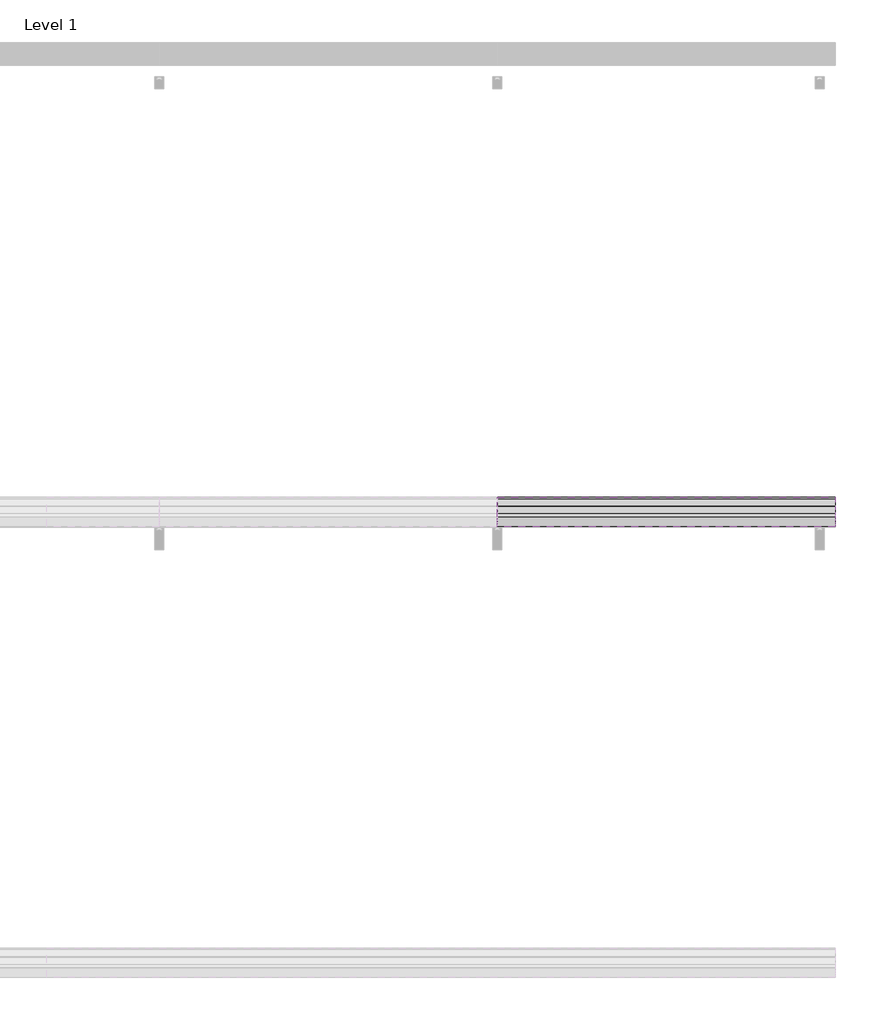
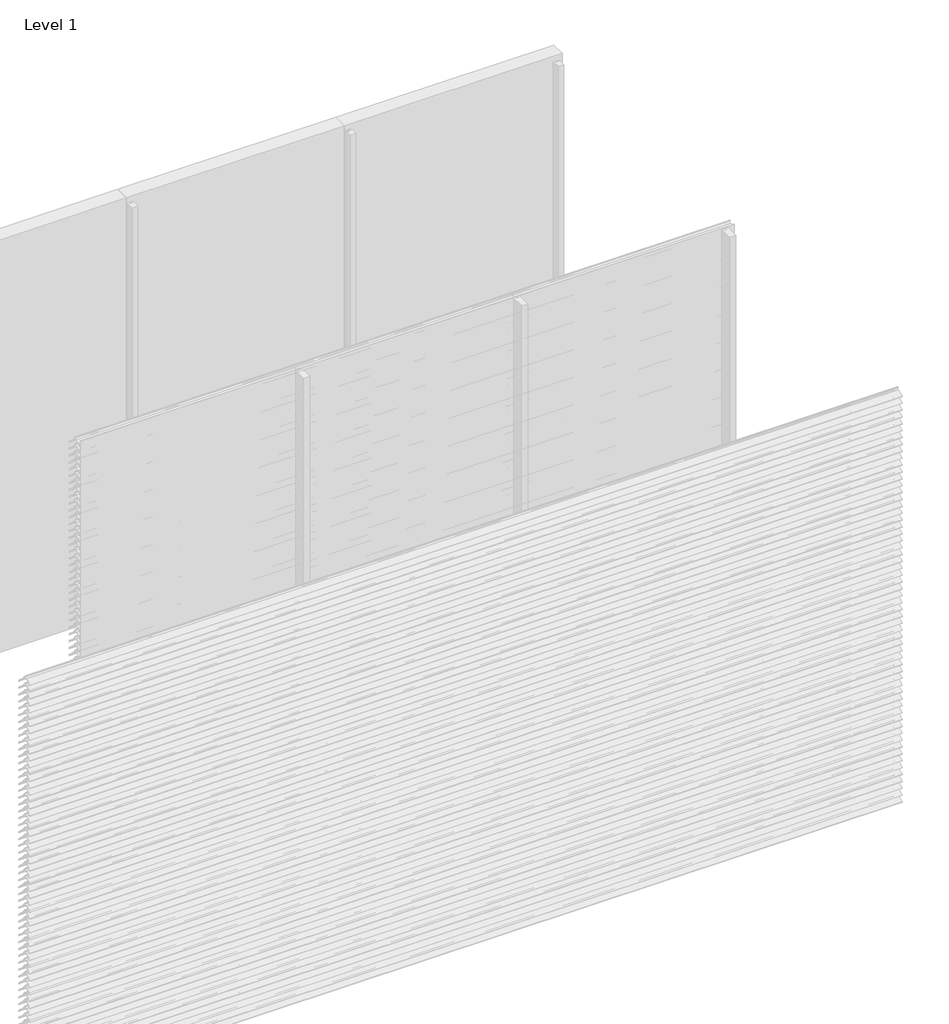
# One storey, part 70 of 173: 18 proxies.
"""IFC4 building model written with IfcOpenShell, lengths in millimetres."""

from ifc_helpers import new_model, si_unit, point, frame, frame_2d, origin, place, context, project, spatial, polyline, circle_curve, trimmed, segment, composite_curve, outline, extrude, element, save

model = new_model("IFC4")

# Units and contexts
model_context = context("Model", 3, world=origin())
ifc_project = project(units=[si_unit("LENGTHUNIT", "METRE", prefix="MILLI")], contexts=[model_context])

# Site, building, storey
site = spatial("IfcSite", under=ifc_project)
building = spatial("IfcBuilding", under=site)
storey = spatial("IfcBuildingStorey", under=building, Name="Level 1", Elevation=0.0)

# Proxies
placement = place(None, origin())
element("IfcBuildingElementProxy", 1, Name="Wall Sweeps", at=placement, inside=storey, context=model_context, shape_type="SweptSolid", body=[
    extrude(outline(composite_curve([segment(polyline([(-35998.0, 1359.1474905), (-35998.0, 1361.6227417)]), True, "CONTINUOUS"), segment(trimmed(circle_curve(frame_2d((-35951.2682172, 1316.2200208)), 65.1557103), [point((-35998.0, 1361.6227417))], [point((-35954.4014323, 1381.3003524))], False, "CARTESIAN"), True, "CONTINUOUS"), segment(polyline([(-35954.4014323, 1381.3003524), (-35934.8315836, 1381.3003524)]), True, "CONTINUOUS"), segment(trimmed(circle_curve(frame_2d((-35732.7329489, 1528.5533172)), 250.0545817), [point((-35934.8315836, 1381.3003524))], [point((-35941.4452143, 1390.8344583))], False, "CARTESIAN"), True, "CONTINUOUS"), segment(trimmed(circle_curve(frame_2d((-35953.2981792, 1385.1737835)), 13.1352966), [point((-35941.4452143, 1390.8344583))], [point((-35953.8171475, 1398.298824))], True, "CARTESIAN"), True, "CONTINUOUS"), segment(polyline([(-35953.8171475, 1398.298824), (-35953.8171475, 1400.0)]), True, "CONTINUOUS"), segment(trimmed(circle_curve(frame_2d((-35953.2981792, 1385.1737835)), 14.8352966), [point((-35953.8171475, 1400.0))], [point((-35939.9637661, 1391.6760487))], False, "CARTESIAN"), True, "CONTINUOUS"), segment(trimmed(circle_curve(frame_2d((-35732.7329489, 1528.5533172)), 248.3545817), [point((-35939.9637661, 1391.6760487))], [point((-35873.8787895, 1324.2059416))], True, "CARTESIAN"), True, "CONTINUOUS"), segment(trimmed(circle_curve(frame_2d((-35883.8147537, 1311.6649442)), 16.0), [point((-35873.8787895, 1324.2059416))], [point((-35867.8648347, 1310.4))], False, "CARTESIAN"), True, "CONTINUOUS"), segment(polyline([(-35867.8648347, 1310.4), (-35869.6712069, 1310.4)]), True, "CONTINUOUS"), segment(trimmed(circle_curve(frame_2d((-35883.8147537, 1311.6649442)), 14.2), [point((-35869.6712069, 1310.4))], [point((-35874.9518628, 1322.7594998))], True, "CARTESIAN"), True, "CONTINUOUS"), segment(trimmed(circle_curve(frame_2d((-35732.7329489, 1528.5533172)), 250.1545817), [point((-35874.9518628, 1322.7594998))], [point((-35933.7064024, 1379.6003524))], False, "CARTESIAN"), True, "CONTINUOUS"), segment(polyline([(-35933.7064024, 1379.6003524), (-35954.3602632, 1379.6003524)]), True, "CONTINUOUS"), segment(trimmed(circle_curve(frame_2d((-35951.2682172, 1316.2200208)), 63.4557103), [point((-35954.3602632, 1379.6003524))], [point((-35998.0, 1359.1474905))], True, "CARTESIAN"), True, "CONTINUOUS")], self_intersect=False)), frame((4500.0, 0.0, 0.0), z_axis=(1.0, 0.0, 0.0), x_axis=(0.0, 1.0, 0.0)), (0.0, 0.0, 1.0), 1500.0),
])
element("IfcBuildingElementProxy", 2, Name="Wall Sweeps", at=placement, inside=storey, context=model_context, shape_type="SweptSolid", body=[
    extrude(outline(composite_curve([segment(polyline([(-35998.0, 1309.1474905), (-35998.0, 1311.6227417)]), True, "CONTINUOUS"), segment(trimmed(circle_curve(frame_2d((-35951.2682172, 1266.2200208)), 65.1557103), [point((-35998.0, 1311.6227417))], [point((-35954.4014323, 1331.3003524))], False, "CARTESIAN"), True, "CONTINUOUS"), segment(polyline([(-35954.4014323, 1331.3003524), (-35934.8315836, 1331.3003524)]), True, "CONTINUOUS"), segment(trimmed(circle_curve(frame_2d((-35732.7329489, 1478.5533172)), 250.0545817), [point((-35934.8315836, 1331.3003524))], [point((-35941.4452143, 1340.8344583))], False, "CARTESIAN"), True, "CONTINUOUS"), segment(trimmed(circle_curve(frame_2d((-35953.2981792, 1335.1737835)), 13.1352966), [point((-35941.4452143, 1340.8344583))], [point((-35953.8171475, 1348.298824))], True, "CARTESIAN"), True, "CONTINUOUS"), segment(polyline([(-35953.8171475, 1348.298824), (-35953.8171475, 1350.0)]), True, "CONTINUOUS"), segment(trimmed(circle_curve(frame_2d((-35953.2981792, 1335.1737835)), 14.8352966), [point((-35953.8171475, 1350.0))], [point((-35939.9637661, 1341.6760487))], False, "CARTESIAN"), True, "CONTINUOUS"), segment(trimmed(circle_curve(frame_2d((-35732.7329489, 1478.5533172)), 248.3545817), [point((-35939.9637661, 1341.6760487))], [point((-35873.8787895, 1274.2059416))], True, "CARTESIAN"), True, "CONTINUOUS"), segment(trimmed(circle_curve(frame_2d((-35883.8147537, 1261.6649442)), 16.0), [point((-35873.8787895, 1274.2059416))], [point((-35867.8648347, 1260.4))], False, "CARTESIAN"), True, "CONTINUOUS"), segment(polyline([(-35867.8648347, 1260.4), (-35869.6712069, 1260.4)]), True, "CONTINUOUS"), segment(trimmed(circle_curve(frame_2d((-35883.8147537, 1261.6649442)), 14.2), [point((-35869.6712069, 1260.4))], [point((-35874.9518628, 1272.7594998))], True, "CARTESIAN"), True, "CONTINUOUS"), segment(trimmed(circle_curve(frame_2d((-35732.7329489, 1478.5533172)), 250.1545817), [point((-35874.9518628, 1272.7594998))], [point((-35933.7064024, 1329.6003524))], False, "CARTESIAN"), True, "CONTINUOUS"), segment(polyline([(-35933.7064024, 1329.6003524), (-35954.3602632, 1329.6003524)]), True, "CONTINUOUS"), segment(trimmed(circle_curve(frame_2d((-35951.2682172, 1266.2200208)), 63.4557103), [point((-35954.3602632, 1329.6003524))], [point((-35998.0, 1309.1474905))], True, "CARTESIAN"), True, "CONTINUOUS")], self_intersect=False)), frame((4500.0, 0.0, 0.0), z_axis=(1.0, 0.0, 0.0), x_axis=(0.0, 1.0, 0.0)), (0.0, 0.0, 1.0), 1500.0),
])
element("IfcBuildingElementProxy", 3, Name="Wall Sweeps", at=placement, inside=storey, context=model_context, shape_type="SweptSolid", body=[
    extrude(outline(composite_curve([segment(polyline([(-35998.0, 1259.1474905), (-35998.0, 1261.6227417)]), True, "CONTINUOUS"), segment(trimmed(circle_curve(frame_2d((-35951.2682172, 1216.2200208)), 65.1557103), [point((-35998.0, 1261.6227417))], [point((-35954.4014323, 1281.3003524))], False, "CARTESIAN"), True, "CONTINUOUS"), segment(polyline([(-35954.4014323, 1281.3003524), (-35934.8315836, 1281.3003524)]), True, "CONTINUOUS"), segment(trimmed(circle_curve(frame_2d((-35732.7329489, 1428.5533172)), 250.0545817), [point((-35934.8315836, 1281.3003524))], [point((-35941.4452143, 1290.8344583))], False, "CARTESIAN"), True, "CONTINUOUS"), segment(trimmed(circle_curve(frame_2d((-35953.2981792, 1285.1737835)), 13.1352966), [point((-35941.4452143, 1290.8344583))], [point((-35953.8171475, 1298.298824))], True, "CARTESIAN"), True, "CONTINUOUS"), segment(polyline([(-35953.8171475, 1298.298824), (-35953.8171475, 1300.0)]), True, "CONTINUOUS"), segment(trimmed(circle_curve(frame_2d((-35953.2981792, 1285.1737835)), 14.8352966), [point((-35953.8171475, 1300.0))], [point((-35939.9637661, 1291.6760487))], False, "CARTESIAN"), True, "CONTINUOUS"), segment(trimmed(circle_curve(frame_2d((-35732.7329489, 1428.5533172)), 248.3545817), [point((-35939.9637661, 1291.6760487))], [point((-35873.8787895, 1224.2059416))], True, "CARTESIAN"), True, "CONTINUOUS"), segment(trimmed(circle_curve(frame_2d((-35883.8147537, 1211.6649442)), 16.0), [point((-35873.8787895, 1224.2059416))], [point((-35867.8648347, 1210.4))], False, "CARTESIAN"), True, "CONTINUOUS"), segment(polyline([(-35867.8648347, 1210.4), (-35869.6712069, 1210.4)]), True, "CONTINUOUS"), segment(trimmed(circle_curve(frame_2d((-35883.8147537, 1211.6649442)), 14.2), [point((-35869.6712069, 1210.4))], [point((-35874.9518628, 1222.7594998))], True, "CARTESIAN"), True, "CONTINUOUS"), segment(trimmed(circle_curve(frame_2d((-35732.7329489, 1428.5533172)), 250.1545817), [point((-35874.9518628, 1222.7594998))], [point((-35933.7064024, 1279.6003524))], False, "CARTESIAN"), True, "CONTINUOUS"), segment(polyline([(-35933.7064024, 1279.6003524), (-35954.3602632, 1279.6003524)]), True, "CONTINUOUS"), segment(trimmed(circle_curve(frame_2d((-35951.2682172, 1216.2200208)), 63.4557103), [point((-35954.3602632, 1279.6003524))], [point((-35998.0, 1259.1474905))], True, "CARTESIAN"), True, "CONTINUOUS")], self_intersect=False)), frame((4500.0, 0.0, 0.0), z_axis=(1.0, 0.0, 0.0), x_axis=(0.0, 1.0, 0.0)), (0.0, 0.0, 1.0), 1500.0),
])
element("IfcBuildingElementProxy", 4, Name="Wall Sweeps", at=placement, inside=storey, context=model_context, shape_type="SweptSolid", body=[
    extrude(outline(composite_curve([segment(polyline([(-35998.0, 1209.1474905), (-35998.0, 1211.6227417)]), True, "CONTINUOUS"), segment(trimmed(circle_curve(frame_2d((-35951.2682172, 1166.2200208)), 65.1557103), [point((-35998.0, 1211.6227417))], [point((-35954.4014323, 1231.3003524))], False, "CARTESIAN"), True, "CONTINUOUS"), segment(polyline([(-35954.4014323, 1231.3003524), (-35934.8315836, 1231.3003524)]), True, "CONTINUOUS"), segment(trimmed(circle_curve(frame_2d((-35732.7329489, 1378.5533172)), 250.0545817), [point((-35934.8315836, 1231.3003524))], [point((-35941.4452143, 1240.8344583))], False, "CARTESIAN"), True, "CONTINUOUS"), segment(trimmed(circle_curve(frame_2d((-35953.2981792, 1235.1737835)), 13.1352966), [point((-35941.4452143, 1240.8344583))], [point((-35953.8171475, 1248.298824))], True, "CARTESIAN"), True, "CONTINUOUS"), segment(polyline([(-35953.8171475, 1248.298824), (-35953.8171475, 1250.0)]), True, "CONTINUOUS"), segment(trimmed(circle_curve(frame_2d((-35953.2981792, 1235.1737835)), 14.8352966), [point((-35953.8171475, 1250.0))], [point((-35939.9637661, 1241.6760487))], False, "CARTESIAN"), True, "CONTINUOUS"), segment(trimmed(circle_curve(frame_2d((-35732.7329489, 1378.5533172)), 248.3545817), [point((-35939.9637661, 1241.6760487))], [point((-35873.8787895, 1174.2059416))], True, "CARTESIAN"), True, "CONTINUOUS"), segment(trimmed(circle_curve(frame_2d((-35883.8147537, 1161.6649442)), 16.0), [point((-35873.8787895, 1174.2059416))], [point((-35867.8648347, 1160.4))], False, "CARTESIAN"), True, "CONTINUOUS"), segment(polyline([(-35867.8648347, 1160.4), (-35869.6712069, 1160.4)]), True, "CONTINUOUS"), segment(trimmed(circle_curve(frame_2d((-35883.8147537, 1161.6649442)), 14.2), [point((-35869.6712069, 1160.4))], [point((-35874.9518628, 1172.7594998))], True, "CARTESIAN"), True, "CONTINUOUS"), segment(trimmed(circle_curve(frame_2d((-35732.7329489, 1378.5533172)), 250.1545817), [point((-35874.9518628, 1172.7594998))], [point((-35933.7064024, 1229.6003524))], False, "CARTESIAN"), True, "CONTINUOUS"), segment(polyline([(-35933.7064024, 1229.6003524), (-35954.3602632, 1229.6003524)]), True, "CONTINUOUS"), segment(trimmed(circle_curve(frame_2d((-35951.2682172, 1166.2200208)), 63.4557103), [point((-35954.3602632, 1229.6003524))], [point((-35998.0, 1209.1474905))], True, "CARTESIAN"), True, "CONTINUOUS")], self_intersect=False)), frame((4500.0, 0.0, 0.0), z_axis=(1.0, 0.0, 0.0), x_axis=(0.0, 1.0, 0.0)), (0.0, 0.0, 1.0), 1500.0),
])
element("IfcBuildingElementProxy", 5, Name="Wall Sweeps", at=placement, inside=storey, context=model_context, shape_type="SweptSolid", body=[
    extrude(outline(composite_curve([segment(polyline([(-35998.0, 1159.1474905), (-35998.0, 1161.6227417)]), True, "CONTINUOUS"), segment(trimmed(circle_curve(frame_2d((-35951.2682172, 1116.2200208)), 65.1557103), [point((-35998.0, 1161.6227417))], [point((-35954.4014323, 1181.3003524))], False, "CARTESIAN"), True, "CONTINUOUS"), segment(polyline([(-35954.4014323, 1181.3003524), (-35934.8315836, 1181.3003524)]), True, "CONTINUOUS"), segment(trimmed(circle_curve(frame_2d((-35732.7329489, 1328.5533172)), 250.0545817), [point((-35934.8315836, 1181.3003524))], [point((-35941.4452143, 1190.8344583))], False, "CARTESIAN"), True, "CONTINUOUS"), segment(trimmed(circle_curve(frame_2d((-35953.2981792, 1185.1737835)), 13.1352966), [point((-35941.4452143, 1190.8344583))], [point((-35953.8171475, 1198.298824))], True, "CARTESIAN"), True, "CONTINUOUS"), segment(polyline([(-35953.8171475, 1198.298824), (-35953.8171475, 1200.0)]), True, "CONTINUOUS"), segment(trimmed(circle_curve(frame_2d((-35953.2981792, 1185.1737835)), 14.8352966), [point((-35953.8171475, 1200.0))], [point((-35939.9637661, 1191.6760487))], False, "CARTESIAN"), True, "CONTINUOUS"), segment(trimmed(circle_curve(frame_2d((-35732.7329489, 1328.5533172)), 248.3545817), [point((-35939.9637661, 1191.6760487))], [point((-35873.8787895, 1124.2059416))], True, "CARTESIAN"), True, "CONTINUOUS"), segment(trimmed(circle_curve(frame_2d((-35883.8147537, 1111.6649442)), 16.0), [point((-35873.8787895, 1124.2059416))], [point((-35867.8648347, 1110.4))], False, "CARTESIAN"), True, "CONTINUOUS"), segment(polyline([(-35867.8648347, 1110.4), (-35869.6712069, 1110.4)]), True, "CONTINUOUS"), segment(trimmed(circle_curve(frame_2d((-35883.8147537, 1111.6649442)), 14.2), [point((-35869.6712069, 1110.4))], [point((-35874.9518628, 1122.7594998))], True, "CARTESIAN"), True, "CONTINUOUS"), segment(trimmed(circle_curve(frame_2d((-35732.7329489, 1328.5533172)), 250.1545817), [point((-35874.9518628, 1122.7594998))], [point((-35933.7064024, 1179.6003524))], False, "CARTESIAN"), True, "CONTINUOUS"), segment(polyline([(-35933.7064024, 1179.6003524), (-35954.3602632, 1179.6003524)]), True, "CONTINUOUS"), segment(trimmed(circle_curve(frame_2d((-35951.2682172, 1116.2200208)), 63.4557103), [point((-35954.3602632, 1179.6003524))], [point((-35998.0, 1159.1474905))], True, "CARTESIAN"), True, "CONTINUOUS")], self_intersect=False)), frame((4500.0, 0.0, 0.0), z_axis=(1.0, 0.0, 0.0), x_axis=(0.0, 1.0, 0.0)), (0.0, 0.0, 1.0), 1500.0),
])
element("IfcBuildingElementProxy", 6, Name="Wall Sweeps", at=placement, inside=storey, context=model_context, shape_type="SweptSolid", body=[
    extrude(outline(composite_curve([segment(polyline([(-35998.0, 1109.1474905), (-35998.0, 1111.6227417)]), True, "CONTINUOUS"), segment(trimmed(circle_curve(frame_2d((-35951.2682172, 1066.2200208)), 65.1557103), [point((-35998.0, 1111.6227417))], [point((-35954.4014323, 1131.3003524))], False, "CARTESIAN"), True, "CONTINUOUS"), segment(polyline([(-35954.4014323, 1131.3003524), (-35934.8315836, 1131.3003524)]), True, "CONTINUOUS"), segment(trimmed(circle_curve(frame_2d((-35732.7329489, 1278.5533172)), 250.0545817), [point((-35934.8315836, 1131.3003524))], [point((-35941.4452143, 1140.8344583))], False, "CARTESIAN"), True, "CONTINUOUS"), segment(trimmed(circle_curve(frame_2d((-35953.2981792, 1135.1737835)), 13.1352966), [point((-35941.4452143, 1140.8344583))], [point((-35953.8171475, 1148.298824))], True, "CARTESIAN"), True, "CONTINUOUS"), segment(polyline([(-35953.8171475, 1148.298824), (-35953.8171475, 1150.0)]), True, "CONTINUOUS"), segment(trimmed(circle_curve(frame_2d((-35953.2981792, 1135.1737835)), 14.8352966), [point((-35953.8171475, 1150.0))], [point((-35939.9637661, 1141.6760487))], False, "CARTESIAN"), True, "CONTINUOUS"), segment(trimmed(circle_curve(frame_2d((-35732.7329489, 1278.5533172)), 248.3545817), [point((-35939.9637661, 1141.6760487))], [point((-35873.8787895, 1074.2059416))], True, "CARTESIAN"), True, "CONTINUOUS"), segment(trimmed(circle_curve(frame_2d((-35883.8147537, 1061.6649442)), 16.0), [point((-35873.8787895, 1074.2059416))], [point((-35867.8648347, 1060.4))], False, "CARTESIAN"), True, "CONTINUOUS"), segment(polyline([(-35867.8648347, 1060.4), (-35869.6712069, 1060.4)]), True, "CONTINUOUS"), segment(trimmed(circle_curve(frame_2d((-35883.8147537, 1061.6649442)), 14.2), [point((-35869.6712069, 1060.4))], [point((-35874.9518628, 1072.7594998))], True, "CARTESIAN"), True, "CONTINUOUS"), segment(trimmed(circle_curve(frame_2d((-35732.7329489, 1278.5533172)), 250.1545817), [point((-35874.9518628, 1072.7594998))], [point((-35933.7064024, 1129.6003524))], False, "CARTESIAN"), True, "CONTINUOUS"), segment(polyline([(-35933.7064024, 1129.6003524), (-35954.3602632, 1129.6003524)]), True, "CONTINUOUS"), segment(trimmed(circle_curve(frame_2d((-35951.2682172, 1066.2200208)), 63.4557103), [point((-35954.3602632, 1129.6003524))], [point((-35998.0, 1109.1474905))], True, "CARTESIAN"), True, "CONTINUOUS")], self_intersect=False)), frame((4500.0, 0.0, 0.0), z_axis=(1.0, 0.0, 0.0), x_axis=(0.0, 1.0, 0.0)), (0.0, 0.0, 1.0), 1500.0),
])
element("IfcBuildingElementProxy", 7, Name="Wall Sweeps", at=placement, inside=storey, context=model_context, shape_type="SweptSolid", body=[
    extrude(outline(composite_curve([segment(polyline([(-35998.0, 1059.1474905), (-35998.0, 1061.6227417)]), True, "CONTINUOUS"), segment(trimmed(circle_curve(frame_2d((-35951.2682172, 1016.2200208)), 65.1557103), [point((-35998.0, 1061.6227417))], [point((-35954.4014323, 1081.3003524))], False, "CARTESIAN"), True, "CONTINUOUS"), segment(polyline([(-35954.4014323, 1081.3003524), (-35934.8315836, 1081.3003524)]), True, "CONTINUOUS"), segment(trimmed(circle_curve(frame_2d((-35732.7329489, 1228.5533172)), 250.0545817), [point((-35934.8315836, 1081.3003524))], [point((-35941.4452143, 1090.8344583))], False, "CARTESIAN"), True, "CONTINUOUS"), segment(trimmed(circle_curve(frame_2d((-35953.2981792, 1085.1737835)), 13.1352966), [point((-35941.4452143, 1090.8344583))], [point((-35953.8171475, 1098.298824))], True, "CARTESIAN"), True, "CONTINUOUS"), segment(polyline([(-35953.8171475, 1098.298824), (-35953.8171475, 1100.0)]), True, "CONTINUOUS"), segment(trimmed(circle_curve(frame_2d((-35953.2981792, 1085.1737835)), 14.8352966), [point((-35953.8171475, 1100.0))], [point((-35939.9637661, 1091.6760487))], False, "CARTESIAN"), True, "CONTINUOUS"), segment(trimmed(circle_curve(frame_2d((-35732.7329489, 1228.5533172)), 248.3545817), [point((-35939.9637661, 1091.6760487))], [point((-35873.8787895, 1024.2059416))], True, "CARTESIAN"), True, "CONTINUOUS"), segment(trimmed(circle_curve(frame_2d((-35883.8147537, 1011.6649442)), 16.0), [point((-35873.8787895, 1024.2059416))], [point((-35867.8648347, 1010.4))], False, "CARTESIAN"), True, "CONTINUOUS"), segment(polyline([(-35867.8648347, 1010.4), (-35869.6712069, 1010.4)]), True, "CONTINUOUS"), segment(trimmed(circle_curve(frame_2d((-35883.8147537, 1011.6649442)), 14.2), [point((-35869.6712069, 1010.4))], [point((-35874.9518628, 1022.7594998))], True, "CARTESIAN"), True, "CONTINUOUS"), segment(trimmed(circle_curve(frame_2d((-35732.7329489, 1228.5533172)), 250.1545817), [point((-35874.9518628, 1022.7594998))], [point((-35933.7064024, 1079.6003524))], False, "CARTESIAN"), True, "CONTINUOUS"), segment(polyline([(-35933.7064024, 1079.6003524), (-35954.3602632, 1079.6003524)]), True, "CONTINUOUS"), segment(trimmed(circle_curve(frame_2d((-35951.2682172, 1016.2200208)), 63.4557103), [point((-35954.3602632, 1079.6003524))], [point((-35998.0, 1059.1474905))], True, "CARTESIAN"), True, "CONTINUOUS")], self_intersect=False)), frame((4500.0, 0.0, 0.0), z_axis=(1.0, 0.0, 0.0), x_axis=(0.0, 1.0, 0.0)), (0.0, 0.0, 1.0), 1500.0),
])
element("IfcBuildingElementProxy", 8, Name="Wall Sweeps", at=placement, inside=storey, context=model_context, shape_type="SweptSolid", body=[
    extrude(outline(composite_curve([segment(polyline([(-35998.0, 1009.1474905), (-35998.0, 1011.6227417)]), True, "CONTINUOUS"), segment(trimmed(circle_curve(frame_2d((-35951.2682172, 966.2200208)), 65.1557103), [point((-35998.0, 1011.6227417))], [point((-35954.4014323, 1031.3003524))], False, "CARTESIAN"), True, "CONTINUOUS"), segment(polyline([(-35954.4014323, 1031.3003524), (-35934.8315836, 1031.3003524)]), True, "CONTINUOUS"), segment(trimmed(circle_curve(frame_2d((-35732.7329489, 1178.5533172)), 250.0545817), [point((-35934.8315836, 1031.3003524))], [point((-35941.4452143, 1040.8344583))], False, "CARTESIAN"), True, "CONTINUOUS"), segment(trimmed(circle_curve(frame_2d((-35953.2981792, 1035.1737835)), 13.1352966), [point((-35941.4452143, 1040.8344583))], [point((-35953.8171475, 1048.298824))], True, "CARTESIAN"), True, "CONTINUOUS"), segment(polyline([(-35953.8171475, 1048.298824), (-35953.8171475, 1050.0)]), True, "CONTINUOUS"), segment(trimmed(circle_curve(frame_2d((-35953.2981792, 1035.1737835)), 14.8352966), [point((-35953.8171475, 1050.0))], [point((-35939.9637661, 1041.6760487))], False, "CARTESIAN"), True, "CONTINUOUS"), segment(trimmed(circle_curve(frame_2d((-35732.7329489, 1178.5533172)), 248.3545817), [point((-35939.9637661, 1041.6760487))], [point((-35873.8787895, 974.2059416))], True, "CARTESIAN"), True, "CONTINUOUS"), segment(trimmed(circle_curve(frame_2d((-35883.8147537, 961.6649442)), 16.0), [point((-35873.8787895, 974.2059416))], [point((-35867.8648347, 960.4))], False, "CARTESIAN"), True, "CONTINUOUS"), segment(polyline([(-35867.8648347, 960.4), (-35869.6712069, 960.4)]), True, "CONTINUOUS"), segment(trimmed(circle_curve(frame_2d((-35883.8147537, 961.6649442)), 14.2), [point((-35869.6712069, 960.4))], [point((-35874.9518628, 972.7594998))], True, "CARTESIAN"), True, "CONTINUOUS"), segment(trimmed(circle_curve(frame_2d((-35732.7329489, 1178.5533172)), 250.1545817), [point((-35874.9518628, 972.7594998))], [point((-35933.7064024, 1029.6003524))], False, "CARTESIAN"), True, "CONTINUOUS"), segment(polyline([(-35933.7064024, 1029.6003524), (-35954.3602632, 1029.6003524)]), True, "CONTINUOUS"), segment(trimmed(circle_curve(frame_2d((-35951.2682172, 966.2200208)), 63.4557103), [point((-35954.3602632, 1029.6003524))], [point((-35998.0, 1009.1474905))], True, "CARTESIAN"), True, "CONTINUOUS")], self_intersect=False)), frame((4500.0, 0.0, 0.0), z_axis=(1.0, 0.0, 0.0), x_axis=(0.0, 1.0, 0.0)), (0.0, 0.0, 1.0), 1500.0),
])
element("IfcBuildingElementProxy", 9, Name="Wall Sweeps", at=placement, inside=storey, context=model_context, shape_type="SweptSolid", body=[
    extrude(outline(composite_curve([segment(polyline([(-35998.0, 959.1474905), (-35998.0, 961.6227417)]), True, "CONTINUOUS"), segment(trimmed(circle_curve(frame_2d((-35951.2682172, 916.2200208)), 65.1557103), [point((-35998.0, 961.6227417))], [point((-35954.4014323, 981.3003524))], False, "CARTESIAN"), True, "CONTINUOUS"), segment(polyline([(-35954.4014323, 981.3003524), (-35934.8315836, 981.3003524)]), True, "CONTINUOUS"), segment(trimmed(circle_curve(frame_2d((-35732.7329489, 1128.5533172)), 250.0545817), [point((-35934.8315836, 981.3003524))], [point((-35941.4452143, 990.8344583))], False, "CARTESIAN"), True, "CONTINUOUS"), segment(trimmed(circle_curve(frame_2d((-35953.2981792, 985.1737835)), 13.1352966), [point((-35941.4452143, 990.8344583))], [point((-35953.8171475, 998.298824))], True, "CARTESIAN"), True, "CONTINUOUS"), segment(polyline([(-35953.8171475, 998.298824), (-35953.8171475, 1000.0)]), True, "CONTINUOUS"), segment(trimmed(circle_curve(frame_2d((-35953.2981792, 985.1737835)), 14.8352966), [point((-35953.8171475, 1000.0))], [point((-35939.9637661, 991.6760487))], False, "CARTESIAN"), True, "CONTINUOUS"), segment(trimmed(circle_curve(frame_2d((-35732.7329489, 1128.5533172)), 248.3545817), [point((-35939.9637661, 991.6760487))], [point((-35873.8787895, 924.2059416))], True, "CARTESIAN"), True, "CONTINUOUS"), segment(trimmed(circle_curve(frame_2d((-35883.8147537, 911.6649442)), 16.0), [point((-35873.8787895, 924.2059416))], [point((-35867.8648347, 910.4))], False, "CARTESIAN"), True, "CONTINUOUS"), segment(polyline([(-35867.8648347, 910.4), (-35869.6712069, 910.4)]), True, "CONTINUOUS"), segment(trimmed(circle_curve(frame_2d((-35883.8147537, 911.6649442)), 14.2), [point((-35869.6712069, 910.4))], [point((-35874.9518628, 922.7594998))], True, "CARTESIAN"), True, "CONTINUOUS"), segment(trimmed(circle_curve(frame_2d((-35732.7329489, 1128.5533172)), 250.1545817), [point((-35874.9518628, 922.7594998))], [point((-35933.7064024, 979.6003524))], False, "CARTESIAN"), True, "CONTINUOUS"), segment(polyline([(-35933.7064024, 979.6003524), (-35954.3602632, 979.6003524)]), True, "CONTINUOUS"), segment(trimmed(circle_curve(frame_2d((-35951.2682172, 916.2200208)), 63.4557103), [point((-35954.3602632, 979.6003524))], [point((-35998.0, 959.1474905))], True, "CARTESIAN"), True, "CONTINUOUS")], self_intersect=False)), frame((4500.0, 0.0, 0.0), z_axis=(1.0, 0.0, 0.0), x_axis=(0.0, 1.0, 0.0)), (0.0, 0.0, 1.0), 1500.0),
])
element("IfcBuildingElementProxy", 10, Name="Wall Sweeps", at=placement, inside=storey, context=model_context, shape_type="SweptSolid", body=[
    extrude(outline(composite_curve([segment(polyline([(-35998.0, 909.1474905), (-35998.0, 911.6227417)]), True, "CONTINUOUS"), segment(trimmed(circle_curve(frame_2d((-35951.2682172, 866.2200208)), 65.1557103), [point((-35998.0, 911.6227417))], [point((-35954.4014323, 931.3003524))], False, "CARTESIAN"), True, "CONTINUOUS"), segment(polyline([(-35954.4014323, 931.3003524), (-35934.8315836, 931.3003524)]), True, "CONTINUOUS"), segment(trimmed(circle_curve(frame_2d((-35732.7329489, 1078.5533172)), 250.0545817), [point((-35934.8315836, 931.3003524))], [point((-35941.4452143, 940.8344583))], False, "CARTESIAN"), True, "CONTINUOUS"), segment(trimmed(circle_curve(frame_2d((-35953.2981792, 935.1737835)), 13.1352966), [point((-35941.4452143, 940.8344583))], [point((-35953.8171475, 948.298824))], True, "CARTESIAN"), True, "CONTINUOUS"), segment(polyline([(-35953.8171475, 948.298824), (-35953.8171475, 950.0)]), True, "CONTINUOUS"), segment(trimmed(circle_curve(frame_2d((-35953.2981792, 935.1737835)), 14.8352966), [point((-35953.8171475, 950.0))], [point((-35939.9637661, 941.6760487))], False, "CARTESIAN"), True, "CONTINUOUS"), segment(trimmed(circle_curve(frame_2d((-35732.7329489, 1078.5533172)), 248.3545817), [point((-35939.9637661, 941.6760487))], [point((-35873.8787895, 874.2059416))], True, "CARTESIAN"), True, "CONTINUOUS"), segment(trimmed(circle_curve(frame_2d((-35883.8147537, 861.6649442)), 16.0), [point((-35873.8787895, 874.2059416))], [point((-35867.8648347, 860.4))], False, "CARTESIAN"), True, "CONTINUOUS"), segment(polyline([(-35867.8648347, 860.4), (-35869.6712069, 860.4)]), True, "CONTINUOUS"), segment(trimmed(circle_curve(frame_2d((-35883.8147537, 861.6649442)), 14.2), [point((-35869.6712069, 860.4))], [point((-35874.9518628, 872.7594998))], True, "CARTESIAN"), True, "CONTINUOUS"), segment(trimmed(circle_curve(frame_2d((-35732.7329489, 1078.5533172)), 250.1545817), [point((-35874.9518628, 872.7594998))], [point((-35933.7064024, 929.6003524))], False, "CARTESIAN"), True, "CONTINUOUS"), segment(polyline([(-35933.7064024, 929.6003524), (-35954.3602632, 929.6003524)]), True, "CONTINUOUS"), segment(trimmed(circle_curve(frame_2d((-35951.2682172, 866.2200208)), 63.4557103), [point((-35954.3602632, 929.6003524))], [point((-35998.0, 909.1474905))], True, "CARTESIAN"), True, "CONTINUOUS")], self_intersect=False)), frame((4500.0, 0.0, 0.0), z_axis=(1.0, 0.0, 0.0), x_axis=(0.0, 1.0, 0.0)), (0.0, 0.0, 1.0), 1500.0),
])
element("IfcBuildingElementProxy", 11, Name="Wall Sweeps", at=placement, inside=storey, context=model_context, shape_type="SweptSolid", body=[
    extrude(outline(composite_curve([segment(polyline([(-35998.0, 859.1474905), (-35998.0, 861.6227417)]), True, "CONTINUOUS"), segment(trimmed(circle_curve(frame_2d((-35951.2682172, 816.2200208)), 65.1557103), [point((-35998.0, 861.6227417))], [point((-35954.4014323, 881.3003524))], False, "CARTESIAN"), True, "CONTINUOUS"), segment(polyline([(-35954.4014323, 881.3003524), (-35934.8315836, 881.3003524)]), True, "CONTINUOUS"), segment(trimmed(circle_curve(frame_2d((-35732.7329489, 1028.5533172)), 250.0545817), [point((-35934.8315836, 881.3003524))], [point((-35941.4452143, 890.8344583))], False, "CARTESIAN"), True, "CONTINUOUS"), segment(trimmed(circle_curve(frame_2d((-35953.2981792, 885.1737835)), 13.1352966), [point((-35941.4452143, 890.8344583))], [point((-35953.8171475, 898.298824))], True, "CARTESIAN"), True, "CONTINUOUS"), segment(polyline([(-35953.8171475, 898.298824), (-35953.8171475, 900.0)]), True, "CONTINUOUS"), segment(trimmed(circle_curve(frame_2d((-35953.2981792, 885.1737835)), 14.8352966), [point((-35953.8171475, 900.0))], [point((-35939.9637661, 891.6760487))], False, "CARTESIAN"), True, "CONTINUOUS"), segment(trimmed(circle_curve(frame_2d((-35732.7329489, 1028.5533172)), 248.3545817), [point((-35939.9637661, 891.6760487))], [point((-35873.8787895, 824.2059416))], True, "CARTESIAN"), True, "CONTINUOUS"), segment(trimmed(circle_curve(frame_2d((-35883.8147537, 811.6649442)), 16.0), [point((-35873.8787895, 824.2059416))], [point((-35867.8648347, 810.4))], False, "CARTESIAN"), True, "CONTINUOUS"), segment(polyline([(-35867.8648347, 810.4), (-35869.6712069, 810.4)]), True, "CONTINUOUS"), segment(trimmed(circle_curve(frame_2d((-35883.8147537, 811.6649442)), 14.2), [point((-35869.6712069, 810.4))], [point((-35874.9518628, 822.7594998))], True, "CARTESIAN"), True, "CONTINUOUS"), segment(trimmed(circle_curve(frame_2d((-35732.7329489, 1028.5533172)), 250.1545817), [point((-35874.9518628, 822.7594998))], [point((-35933.7064024, 879.6003524))], False, "CARTESIAN"), True, "CONTINUOUS"), segment(polyline([(-35933.7064024, 879.6003524), (-35954.3602632, 879.6003524)]), True, "CONTINUOUS"), segment(trimmed(circle_curve(frame_2d((-35951.2682172, 816.2200208)), 63.4557103), [point((-35954.3602632, 879.6003524))], [point((-35998.0, 859.1474905))], True, "CARTESIAN"), True, "CONTINUOUS")], self_intersect=False)), frame((4500.0, 0.0, 0.0), z_axis=(1.0, 0.0, 0.0), x_axis=(0.0, 1.0, 0.0)), (0.0, 0.0, 1.0), 1500.0),
])
element("IfcBuildingElementProxy", 12, Name="Wall Sweeps", at=placement, inside=storey, context=model_context, shape_type="SweptSolid", body=[
    extrude(outline(composite_curve([segment(polyline([(-35998.0, 809.1474905), (-35998.0, 811.6227417)]), True, "CONTINUOUS"), segment(trimmed(circle_curve(frame_2d((-35951.2682172, 766.2200208)), 65.1557103), [point((-35998.0, 811.6227417))], [point((-35954.4014323, 831.3003524))], False, "CARTESIAN"), True, "CONTINUOUS"), segment(polyline([(-35954.4014323, 831.3003524), (-35934.8315836, 831.3003524)]), True, "CONTINUOUS"), segment(trimmed(circle_curve(frame_2d((-35732.7329489, 978.5533172)), 250.0545817), [point((-35934.8315836, 831.3003524))], [point((-35941.4452143, 840.8344583))], False, "CARTESIAN"), True, "CONTINUOUS"), segment(trimmed(circle_curve(frame_2d((-35953.2981792, 835.1737835)), 13.1352966), [point((-35941.4452143, 840.8344583))], [point((-35953.8171475, 848.298824))], True, "CARTESIAN"), True, "CONTINUOUS"), segment(polyline([(-35953.8171475, 848.298824), (-35953.8171475, 850.0)]), True, "CONTINUOUS"), segment(trimmed(circle_curve(frame_2d((-35953.2981792, 835.1737835)), 14.8352966), [point((-35953.8171475, 850.0))], [point((-35939.9637661, 841.6760487))], False, "CARTESIAN"), True, "CONTINUOUS"), segment(trimmed(circle_curve(frame_2d((-35732.7329489, 978.5533172)), 248.3545817), [point((-35939.9637661, 841.6760487))], [point((-35873.8787895, 774.2059416))], True, "CARTESIAN"), True, "CONTINUOUS"), segment(trimmed(circle_curve(frame_2d((-35883.8147537, 761.6649442)), 16.0), [point((-35873.8787895, 774.2059416))], [point((-35867.8648347, 760.4))], False, "CARTESIAN"), True, "CONTINUOUS"), segment(polyline([(-35867.8648347, 760.4), (-35869.6712069, 760.4)]), True, "CONTINUOUS"), segment(trimmed(circle_curve(frame_2d((-35883.8147537, 761.6649442)), 14.2), [point((-35869.6712069, 760.4))], [point((-35874.9518628, 772.7594998))], True, "CARTESIAN"), True, "CONTINUOUS"), segment(trimmed(circle_curve(frame_2d((-35732.7329489, 978.5533172)), 250.1545817), [point((-35874.9518628, 772.7594998))], [point((-35933.7064024, 829.6003524))], False, "CARTESIAN"), True, "CONTINUOUS"), segment(polyline([(-35933.7064024, 829.6003524), (-35954.3602632, 829.6003524)]), True, "CONTINUOUS"), segment(trimmed(circle_curve(frame_2d((-35951.2682172, 766.2200208)), 63.4557103), [point((-35954.3602632, 829.6003524))], [point((-35998.0, 809.1474905))], True, "CARTESIAN"), True, "CONTINUOUS")], self_intersect=False)), frame((4500.0, 0.0, 0.0), z_axis=(1.0, 0.0, 0.0), x_axis=(0.0, 1.0, 0.0)), (0.0, 0.0, 1.0), 1500.0),
])
element("IfcBuildingElementProxy", 13, Name="Wall Sweeps", at=placement, inside=storey, context=model_context, shape_type="SweptSolid", body=[
    extrude(outline(composite_curve([segment(polyline([(-35998.0, 759.1474905), (-35998.0, 761.6227417)]), True, "CONTINUOUS"), segment(trimmed(circle_curve(frame_2d((-35951.2682172, 716.2200208)), 65.1557103), [point((-35998.0, 761.6227417))], [point((-35954.4014323, 781.3003524))], False, "CARTESIAN"), True, "CONTINUOUS"), segment(polyline([(-35954.4014323, 781.3003524), (-35934.8315836, 781.3003524)]), True, "CONTINUOUS"), segment(trimmed(circle_curve(frame_2d((-35732.7329489, 928.5533172)), 250.0545817), [point((-35934.8315836, 781.3003524))], [point((-35941.4452143, 790.8344583))], False, "CARTESIAN"), True, "CONTINUOUS"), segment(trimmed(circle_curve(frame_2d((-35953.2981792, 785.1737835)), 13.1352966), [point((-35941.4452143, 790.8344583))], [point((-35953.8171475, 798.298824))], True, "CARTESIAN"), True, "CONTINUOUS"), segment(polyline([(-35953.8171475, 798.298824), (-35953.8171475, 800.0)]), True, "CONTINUOUS"), segment(trimmed(circle_curve(frame_2d((-35953.2981792, 785.1737835)), 14.8352966), [point((-35953.8171475, 800.0))], [point((-35939.9637661, 791.6760487))], False, "CARTESIAN"), True, "CONTINUOUS"), segment(trimmed(circle_curve(frame_2d((-35732.7329489, 928.5533172)), 248.3545817), [point((-35939.9637661, 791.6760487))], [point((-35873.8787895, 724.2059416))], True, "CARTESIAN"), True, "CONTINUOUS"), segment(trimmed(circle_curve(frame_2d((-35883.8147537, 711.6649442)), 16.0), [point((-35873.8787895, 724.2059416))], [point((-35867.8648347, 710.4))], False, "CARTESIAN"), True, "CONTINUOUS"), segment(polyline([(-35867.8648347, 710.4), (-35869.6712069, 710.4)]), True, "CONTINUOUS"), segment(trimmed(circle_curve(frame_2d((-35883.8147537, 711.6649442)), 14.2), [point((-35869.6712069, 710.4))], [point((-35874.9518628, 722.7594998))], True, "CARTESIAN"), True, "CONTINUOUS"), segment(trimmed(circle_curve(frame_2d((-35732.7329489, 928.5533172)), 250.1545817), [point((-35874.9518628, 722.7594998))], [point((-35933.7064024, 779.6003524))], False, "CARTESIAN"), True, "CONTINUOUS"), segment(polyline([(-35933.7064024, 779.6003524), (-35954.3602632, 779.6003524)]), True, "CONTINUOUS"), segment(trimmed(circle_curve(frame_2d((-35951.2682172, 716.2200208)), 63.4557103), [point((-35954.3602632, 779.6003524))], [point((-35998.0, 759.1474905))], True, "CARTESIAN"), True, "CONTINUOUS")], self_intersect=False)), frame((4500.0, 0.0, 0.0), z_axis=(1.0, 0.0, 0.0), x_axis=(0.0, 1.0, 0.0)), (0.0, 0.0, 1.0), 1500.0),
])
element("IfcBuildingElementProxy", 14, Name="Wall Sweeps", at=placement, inside=storey, context=model_context, shape_type="SweptSolid", body=[
    extrude(outline(composite_curve([segment(polyline([(-35998.0, 709.1474905), (-35998.0, 711.6227417)]), True, "CONTINUOUS"), segment(trimmed(circle_curve(frame_2d((-35951.2682172, 666.2200208)), 65.1557103), [point((-35998.0, 711.6227417))], [point((-35954.4014323, 731.3003524))], False, "CARTESIAN"), True, "CONTINUOUS"), segment(polyline([(-35954.4014323, 731.3003524), (-35934.8315836, 731.3003524)]), True, "CONTINUOUS"), segment(trimmed(circle_curve(frame_2d((-35732.7329489, 878.5533172)), 250.0545817), [point((-35934.8315836, 731.3003524))], [point((-35941.4452143, 740.8344583))], False, "CARTESIAN"), True, "CONTINUOUS"), segment(trimmed(circle_curve(frame_2d((-35953.2981792, 735.1737835)), 13.1352966), [point((-35941.4452143, 740.8344583))], [point((-35953.8171475, 748.298824))], True, "CARTESIAN"), True, "CONTINUOUS"), segment(polyline([(-35953.8171475, 748.298824), (-35953.8171475, 750.0)]), True, "CONTINUOUS"), segment(trimmed(circle_curve(frame_2d((-35953.2981792, 735.1737835)), 14.8352966), [point((-35953.8171475, 750.0))], [point((-35939.9637661, 741.6760487))], False, "CARTESIAN"), True, "CONTINUOUS"), segment(trimmed(circle_curve(frame_2d((-35732.7329489, 878.5533172)), 248.3545817), [point((-35939.9637661, 741.6760487))], [point((-35873.8787895, 674.2059416))], True, "CARTESIAN"), True, "CONTINUOUS"), segment(trimmed(circle_curve(frame_2d((-35883.8147537, 661.6649442)), 16.0), [point((-35873.8787895, 674.2059416))], [point((-35867.8648347, 660.4))], False, "CARTESIAN"), True, "CONTINUOUS"), segment(polyline([(-35867.8648347, 660.4), (-35869.6712069, 660.4)]), True, "CONTINUOUS"), segment(trimmed(circle_curve(frame_2d((-35883.8147537, 661.6649442)), 14.2), [point((-35869.6712069, 660.4))], [point((-35874.9518628, 672.7594998))], True, "CARTESIAN"), True, "CONTINUOUS"), segment(trimmed(circle_curve(frame_2d((-35732.7329489, 878.5533172)), 250.1545817), [point((-35874.9518628, 672.7594998))], [point((-35933.7064024, 729.6003524))], False, "CARTESIAN"), True, "CONTINUOUS"), segment(polyline([(-35933.7064024, 729.6003524), (-35954.3602632, 729.6003524)]), True, "CONTINUOUS"), segment(trimmed(circle_curve(frame_2d((-35951.2682172, 666.2200208)), 63.4557103), [point((-35954.3602632, 729.6003524))], [point((-35998.0, 709.1474905))], True, "CARTESIAN"), True, "CONTINUOUS")], self_intersect=False)), frame((4500.0, 0.0, 0.0), z_axis=(1.0, 0.0, 0.0), x_axis=(0.0, 1.0, 0.0)), (0.0, 0.0, 1.0), 1500.0),
])
element("IfcBuildingElementProxy", 15, Name="Wall Sweeps", at=placement, inside=storey, context=model_context, shape_type="SweptSolid", body=[
    extrude(outline(composite_curve([segment(polyline([(-35998.0, 659.1474905), (-35998.0, 661.6227417)]), True, "CONTINUOUS"), segment(trimmed(circle_curve(frame_2d((-35951.2682172, 616.2200208)), 65.1557103), [point((-35998.0, 661.6227417))], [point((-35954.4014323, 681.3003524))], False, "CARTESIAN"), True, "CONTINUOUS"), segment(polyline([(-35954.4014323, 681.3003524), (-35934.8315836, 681.3003524)]), True, "CONTINUOUS"), segment(trimmed(circle_curve(frame_2d((-35732.7329489, 828.5533172)), 250.0545817), [point((-35934.8315836, 681.3003524))], [point((-35941.4452143, 690.8344583))], False, "CARTESIAN"), True, "CONTINUOUS"), segment(trimmed(circle_curve(frame_2d((-35953.2981792, 685.1737835)), 13.1352966), [point((-35941.4452143, 690.8344583))], [point((-35953.8171475, 698.298824))], True, "CARTESIAN"), True, "CONTINUOUS"), segment(polyline([(-35953.8171475, 698.298824), (-35953.8171475, 700.0)]), True, "CONTINUOUS"), segment(trimmed(circle_curve(frame_2d((-35953.2981792, 685.1737835)), 14.8352966), [point((-35953.8171475, 700.0))], [point((-35939.9637661, 691.6760487))], False, "CARTESIAN"), True, "CONTINUOUS"), segment(trimmed(circle_curve(frame_2d((-35732.7329489, 828.5533172)), 248.3545817), [point((-35939.9637661, 691.6760487))], [point((-35873.8787895, 624.2059416))], True, "CARTESIAN"), True, "CONTINUOUS"), segment(trimmed(circle_curve(frame_2d((-35883.8147537, 611.6649442)), 16.0), [point((-35873.8787895, 624.2059416))], [point((-35867.8648347, 610.4))], False, "CARTESIAN"), True, "CONTINUOUS"), segment(polyline([(-35867.8648347, 610.4), (-35869.6712069, 610.4)]), True, "CONTINUOUS"), segment(trimmed(circle_curve(frame_2d((-35883.8147537, 611.6649442)), 14.2), [point((-35869.6712069, 610.4))], [point((-35874.9518628, 622.7594998))], True, "CARTESIAN"), True, "CONTINUOUS"), segment(trimmed(circle_curve(frame_2d((-35732.7329489, 828.5533172)), 250.1545817), [point((-35874.9518628, 622.7594998))], [point((-35933.7064024, 679.6003524))], False, "CARTESIAN"), True, "CONTINUOUS"), segment(polyline([(-35933.7064024, 679.6003524), (-35954.3602632, 679.6003524)]), True, "CONTINUOUS"), segment(trimmed(circle_curve(frame_2d((-35951.2682172, 616.2200208)), 63.4557103), [point((-35954.3602632, 679.6003524))], [point((-35998.0, 659.1474905))], True, "CARTESIAN"), True, "CONTINUOUS")], self_intersect=False)), frame((4500.0, 0.0, 0.0), z_axis=(1.0, 0.0, 0.0), x_axis=(0.0, 1.0, 0.0)), (0.0, 0.0, 1.0), 1500.0),
])
element("IfcBuildingElementProxy", 16, Name="Wall Sweeps", at=placement, inside=storey, context=model_context, shape_type="SweptSolid", body=[
    extrude(outline(composite_curve([segment(polyline([(-35998.0, 609.1474905), (-35998.0, 611.6227417)]), True, "CONTINUOUS"), segment(trimmed(circle_curve(frame_2d((-35951.2682172, 566.2200208)), 65.1557103), [point((-35998.0, 611.6227417))], [point((-35954.4014323, 631.3003524))], False, "CARTESIAN"), True, "CONTINUOUS"), segment(polyline([(-35954.4014323, 631.3003524), (-35934.8315836, 631.3003524)]), True, "CONTINUOUS"), segment(trimmed(circle_curve(frame_2d((-35732.7329489, 778.5533172)), 250.0545817), [point((-35934.8315836, 631.3003524))], [point((-35941.4452143, 640.8344583))], False, "CARTESIAN"), True, "CONTINUOUS"), segment(trimmed(circle_curve(frame_2d((-35953.2981792, 635.1737835)), 13.1352966), [point((-35941.4452143, 640.8344583))], [point((-35953.8171475, 648.298824))], True, "CARTESIAN"), True, "CONTINUOUS"), segment(polyline([(-35953.8171475, 648.298824), (-35953.8171475, 650.0)]), True, "CONTINUOUS"), segment(trimmed(circle_curve(frame_2d((-35953.2981792, 635.1737835)), 14.8352966), [point((-35953.8171475, 650.0))], [point((-35939.9637661, 641.6760487))], False, "CARTESIAN"), True, "CONTINUOUS"), segment(trimmed(circle_curve(frame_2d((-35732.7329489, 778.5533172)), 248.3545817), [point((-35939.9637661, 641.6760487))], [point((-35873.8787895, 574.2059416))], True, "CARTESIAN"), True, "CONTINUOUS"), segment(trimmed(circle_curve(frame_2d((-35883.8147537, 561.6649442)), 16.0), [point((-35873.8787895, 574.2059416))], [point((-35867.8648347, 560.4))], False, "CARTESIAN"), True, "CONTINUOUS"), segment(polyline([(-35867.8648347, 560.4), (-35869.6712069, 560.4)]), True, "CONTINUOUS"), segment(trimmed(circle_curve(frame_2d((-35883.8147537, 561.6649442)), 14.2), [point((-35869.6712069, 560.4))], [point((-35874.9518628, 572.7594998))], True, "CARTESIAN"), True, "CONTINUOUS"), segment(trimmed(circle_curve(frame_2d((-35732.7329489, 778.5533172)), 250.1545817), [point((-35874.9518628, 572.7594998))], [point((-35933.7064024, 629.6003524))], False, "CARTESIAN"), True, "CONTINUOUS"), segment(polyline([(-35933.7064024, 629.6003524), (-35954.3602632, 629.6003524)]), True, "CONTINUOUS"), segment(trimmed(circle_curve(frame_2d((-35951.2682172, 566.2200208)), 63.4557103), [point((-35954.3602632, 629.6003524))], [point((-35998.0, 609.1474905))], True, "CARTESIAN"), True, "CONTINUOUS")], self_intersect=False)), frame((4500.0, 0.0, 0.0), z_axis=(1.0, 0.0, 0.0), x_axis=(0.0, 1.0, 0.0)), (0.0, 0.0, 1.0), 1500.0),
])
element("IfcBuildingElementProxy", 17, Name="Wall Sweeps", at=placement, inside=storey, context=model_context, shape_type="SweptSolid", body=[
    extrude(outline(composite_curve([segment(polyline([(-35998.0, 559.1474905), (-35998.0, 561.6227417)]), True, "CONTINUOUS"), segment(trimmed(circle_curve(frame_2d((-35951.2682172, 516.2200208)), 65.1557103), [point((-35998.0, 561.6227417))], [point((-35954.4014323, 581.3003524))], False, "CARTESIAN"), True, "CONTINUOUS"), segment(polyline([(-35954.4014323, 581.3003524), (-35934.8315836, 581.3003524)]), True, "CONTINUOUS"), segment(trimmed(circle_curve(frame_2d((-35732.7329489, 728.5533172)), 250.0545817), [point((-35934.8315836, 581.3003524))], [point((-35941.4452143, 590.8344583))], False, "CARTESIAN"), True, "CONTINUOUS"), segment(trimmed(circle_curve(frame_2d((-35953.2981792, 585.1737835)), 13.1352966), [point((-35941.4452143, 590.8344583))], [point((-35953.8171475, 598.298824))], True, "CARTESIAN"), True, "CONTINUOUS"), segment(polyline([(-35953.8171475, 598.298824), (-35953.8171475, 600.0)]), True, "CONTINUOUS"), segment(trimmed(circle_curve(frame_2d((-35953.2981792, 585.1737835)), 14.8352966), [point((-35953.8171475, 600.0))], [point((-35939.9637661, 591.6760487))], False, "CARTESIAN"), True, "CONTINUOUS"), segment(trimmed(circle_curve(frame_2d((-35732.7329489, 728.5533172)), 248.3545817), [point((-35939.9637661, 591.6760487))], [point((-35873.8787895, 524.2059416))], True, "CARTESIAN"), True, "CONTINUOUS"), segment(trimmed(circle_curve(frame_2d((-35883.8147537, 511.6649442)), 16.0), [point((-35873.8787895, 524.2059416))], [point((-35867.8648347, 510.4))], False, "CARTESIAN"), True, "CONTINUOUS"), segment(polyline([(-35867.8648347, 510.4), (-35869.6712069, 510.4)]), True, "CONTINUOUS"), segment(trimmed(circle_curve(frame_2d((-35883.8147537, 511.6649442)), 14.2), [point((-35869.6712069, 510.4))], [point((-35874.9518628, 522.7594998))], True, "CARTESIAN"), True, "CONTINUOUS"), segment(trimmed(circle_curve(frame_2d((-35732.7329489, 728.5533172)), 250.1545817), [point((-35874.9518628, 522.7594998))], [point((-35933.7064024, 579.6003524))], False, "CARTESIAN"), True, "CONTINUOUS"), segment(polyline([(-35933.7064024, 579.6003524), (-35954.3602632, 579.6003524)]), True, "CONTINUOUS"), segment(trimmed(circle_curve(frame_2d((-35951.2682172, 516.2200208)), 63.4557103), [point((-35954.3602632, 579.6003524))], [point((-35998.0, 559.1474905))], True, "CARTESIAN"), True, "CONTINUOUS")], self_intersect=False)), frame((4500.0, 0.0, 0.0), z_axis=(1.0, 0.0, 0.0), x_axis=(0.0, 1.0, 0.0)), (0.0, 0.0, 1.0), 1500.0),
])
element("IfcBuildingElementProxy", 18, Name="Wall Sweeps", at=placement, inside=storey, context=model_context, shape_type="SweptSolid", body=[
    extrude(outline(composite_curve([segment(polyline([(-35998.0, 509.1474905), (-35998.0, 511.6227417)]), True, "CONTINUOUS"), segment(trimmed(circle_curve(frame_2d((-35951.2682172, 466.2200208)), 65.1557103), [point((-35998.0, 511.6227417))], [point((-35954.4014323, 531.3003524))], False, "CARTESIAN"), True, "CONTINUOUS"), segment(polyline([(-35954.4014323, 531.3003524), (-35934.8315836, 531.3003524)]), True, "CONTINUOUS"), segment(trimmed(circle_curve(frame_2d((-35732.7329489, 678.5533172)), 250.0545817), [point((-35934.8315836, 531.3003524))], [point((-35941.4452143, 540.8344583))], False, "CARTESIAN"), True, "CONTINUOUS"), segment(trimmed(circle_curve(frame_2d((-35953.2981792, 535.1737835)), 13.1352966), [point((-35941.4452143, 540.8344583))], [point((-35953.8171475, 548.298824))], True, "CARTESIAN"), True, "CONTINUOUS"), segment(polyline([(-35953.8171475, 548.298824), (-35953.8171475, 550.0)]), True, "CONTINUOUS"), segment(trimmed(circle_curve(frame_2d((-35953.2981792, 535.1737835)), 14.8352966), [point((-35953.8171475, 550.0))], [point((-35939.9637661, 541.6760487))], False, "CARTESIAN"), True, "CONTINUOUS"), segment(trimmed(circle_curve(frame_2d((-35732.7329489, 678.5533172)), 248.3545817), [point((-35939.9637661, 541.6760487))], [point((-35873.8787895, 474.2059416))], True, "CARTESIAN"), True, "CONTINUOUS"), segment(trimmed(circle_curve(frame_2d((-35883.8147537, 461.6649442)), 16.0), [point((-35873.8787895, 474.2059416))], [point((-35867.8648347, 460.4))], False, "CARTESIAN"), True, "CONTINUOUS"), segment(polyline([(-35867.8648347, 460.4), (-35869.6712069, 460.4)]), True, "CONTINUOUS"), segment(trimmed(circle_curve(frame_2d((-35883.8147537, 461.6649442)), 14.2), [point((-35869.6712069, 460.4))], [point((-35874.9518628, 472.7594998))], True, "CARTESIAN"), True, "CONTINUOUS"), segment(trimmed(circle_curve(frame_2d((-35732.7329489, 678.5533172)), 250.1545817), [point((-35874.9518628, 472.7594998))], [point((-35933.7064024, 529.6003524))], False, "CARTESIAN"), True, "CONTINUOUS"), segment(polyline([(-35933.7064024, 529.6003524), (-35954.3602632, 529.6003524)]), True, "CONTINUOUS"), segment(trimmed(circle_curve(frame_2d((-35951.2682172, 466.2200208)), 63.4557103), [point((-35954.3602632, 529.6003524))], [point((-35998.0, 509.1474905))], True, "CARTESIAN"), True, "CONTINUOUS")], self_intersect=False)), frame((4500.0, 0.0, 0.0), z_axis=(1.0, 0.0, 0.0), x_axis=(0.0, 1.0, 0.0)), (0.0, 0.0, 1.0), 1500.0),
])

save(model, "model.ifc")
